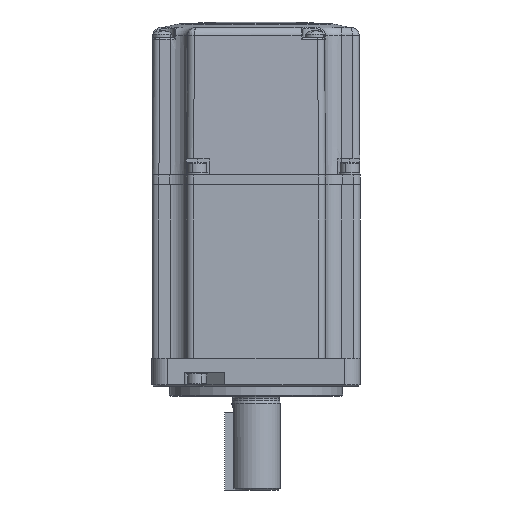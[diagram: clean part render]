
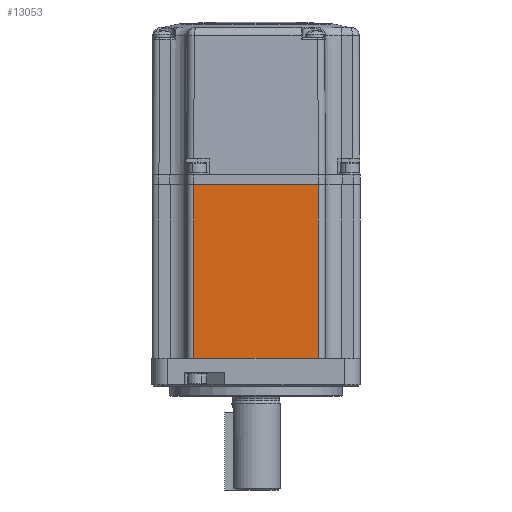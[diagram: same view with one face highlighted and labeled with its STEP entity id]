
A CAD part, front view. The second image highlights one B-rep face of the part: STEP entity #13053.
In plain terms, the highlighted planar face has unit normal (0, -1, 0).
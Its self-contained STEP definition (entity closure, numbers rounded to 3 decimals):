
#13053 = ADVANCED_FACE ( 'NONE', ( #33926 ), #31277, .F. ) ;
#20158 = EDGE_CURVE ( 'NONE', #26838, #26667, #42730, .T. ) ;
#20162 = EDGE_CURVE ( 'NONE', #26680, #26667, #42740, .T. ) ;
#20165 = EDGE_CURVE ( 'NONE', #26838, #26940, #42743, .T. ) ;
#20252 = EDGE_CURVE ( 'NONE', #26680, #26940, #42870, .T. ) ;
#24396 = ORIENTED_EDGE ( 'NONE', *, *, #20162, .F. ) ;
#24441 = ORIENTED_EDGE ( 'NONE', *, *, #20252, .T. ) ;
#24906 = ORIENTED_EDGE ( 'NONE', *, *, #20158, .T. ) ;
#25022 = ORIENTED_EDGE ( 'NONE', *, *, #20165, .F. ) ;
#25299 = CARTESIAN_POINT ( 'NONE',  ( 18., -30., 0.5 ) ) ;
#25303 = CARTESIAN_POINT ( 'NONE',  ( -18., -30., 0.5 ) ) ;
#25414 = CARTESIAN_POINT ( 'NONE',  ( 18., -30., -49.5 ) ) ;
#25450 = CARTESIAN_POINT ( 'NONE',  ( -18., -30., -49.5 ) ) ;
#26667 = VERTEX_POINT ( 'NONE', #25299 ) ;
#26680 = VERTEX_POINT ( 'NONE', #25303 ) ;
#26838 = VERTEX_POINT ( 'NONE', #25414 ) ;
#26940 = VERTEX_POINT ( 'NONE', #25450 ) ;
#29235 = DIRECTION ( 'NONE',  ( 0., 0., 1. ) ) ;
#29241 = CARTESIAN_POINT ( 'NONE',  ( 18., -30., 1.75 ) ) ;
#29247 = CARTESIAN_POINT ( 'NONE',  ( -30., -30., 0.5 ) ) ;
#29253 = CARTESIAN_POINT ( 'NONE',  ( 30., -30., -49.5 ) ) ;
#29254 = DIRECTION ( 'NONE',  ( 1., 0., 0. ) ) ;
#29258 = DIRECTION ( 'NONE',  ( -1., 0., 0. ) ) ;
#29485 = DIRECTION ( 'NONE',  ( 0., 0., -1. ) ) ;
#29491 = CARTESIAN_POINT ( 'NONE',  ( -18., -30., 1.75 ) ) ;
#30890 = DIRECTION ( 'NONE',  ( -1., 0., 0. ) ) ;
#31277 = PLANE ( 'NONE',  #32543 ) ;
#31520 = CARTESIAN_POINT ( 'NONE',  ( -20., -30., 1.75 ) ) ;
#31788 = DIRECTION ( 'NONE',  ( 0., 1., 0. ) ) ;
#32543 = AXIS2_PLACEMENT_3D ( 'NONE', #31520, #31788, #30890 ) ;
#33926 = FACE_OUTER_BOUND ( 'NONE', #35651, .T. ) ;
#35651 = EDGE_LOOP ( 'NONE', ( #25022, #24906, #24396, #24441 ) ) ;
#42730 = LINE ( 'NONE', #29241, #42737 ) ;
#42737 = VECTOR ( 'NONE', #29235, 1000. ) ;
#42740 = LINE ( 'NONE', #29247, #42744 ) ;
#42743 = LINE ( 'NONE', #29253, #42750 ) ;
#42744 = VECTOR ( 'NONE', #29254, 1000. ) ;
#42750 = VECTOR ( 'NONE', #29258, 1000. ) ;
#42870 = LINE ( 'NONE', #29491, #42878 ) ;
#42878 = VECTOR ( 'NONE', #29485, 1000. ) ;
